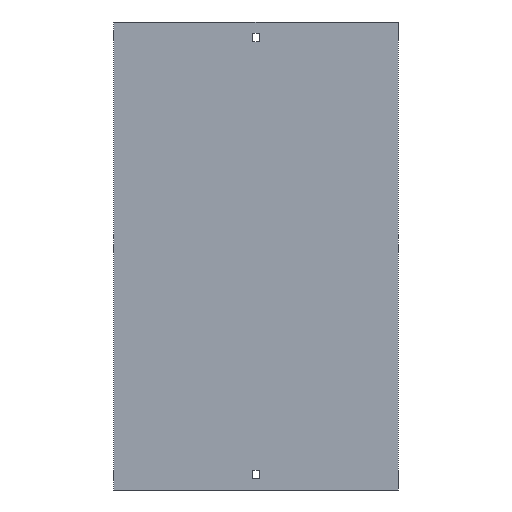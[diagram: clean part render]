
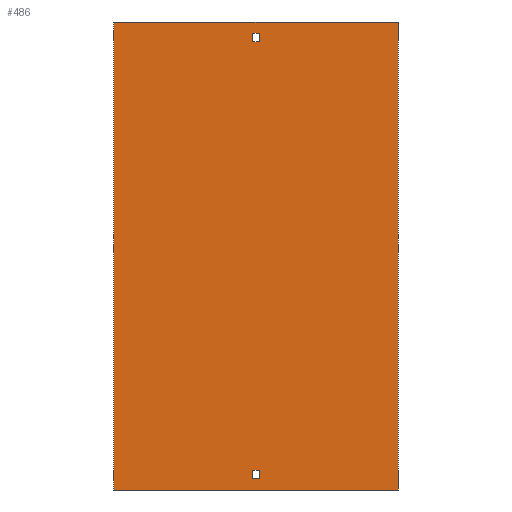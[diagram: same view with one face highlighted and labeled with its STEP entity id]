
A CAD part, front view. The second image highlights one B-rep face of the part: STEP entity #486.
In plain terms, the highlighted planar face has unit normal (0, -1, 0).
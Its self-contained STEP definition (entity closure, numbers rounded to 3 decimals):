
#27 = VERTEX_POINT ( 'NONE', #667 ) ;
#52 = ORIENTED_EDGE ( 'NONE', *, *, #933, .F. ) ;
#59 = CARTESIAN_POINT ( 'NONE',  ( 3.25, 0., -238. ) ) ;
#68 = ORIENTED_EDGE ( 'NONE', *, *, #633, .T. ) ;
#100 = EDGE_LOOP ( 'NONE', ( #280, #1287, #161, #68 ) ) ;
#105 = VERTEX_POINT ( 'NONE', #1090 ) ;
#113 = ORIENTED_EDGE ( 'NONE', *, *, #831, .T. ) ;
#119 = LINE ( 'NONE', #1139, #1295 ) ;
#127 = CARTESIAN_POINT ( 'NONE',  ( -3.25, 0., -229. ) ) ;
#149 = CARTESIAN_POINT ( 'NONE',  ( 3.25, 0., -229. ) ) ;
#161 = ORIENTED_EDGE ( 'NONE', *, *, #769, .F. ) ;
#181 = CARTESIAN_POINT ( 'NONE',  ( -3.25, 0., 238. ) ) ;
#199 = VERTEX_POINT ( 'NONE', #479 ) ;
#203 = VECTOR ( 'NONE', #473, 1000. ) ;
#208 = DIRECTION ( 'NONE',  ( 0., 0., -1. ) ) ;
#255 = LINE ( 'NONE', #372, #616 ) ;
#273 = CARTESIAN_POINT ( 'NONE',  ( -3.25, 0., 229. ) ) ;
#277 = EDGE_CURVE ( 'NONE', #1673, #1375, #361, .T. ) ;
#280 = ORIENTED_EDGE ( 'NONE', *, *, #1478, .T. ) ;
#282 = VERTEX_POINT ( 'NONE', #331 ) ;
#284 = VECTOR ( 'NONE', #1473, 1000. ) ;
#285 = ORIENTED_EDGE ( 'NONE', *, *, #289, .F. ) ;
#287 = CARTESIAN_POINT ( 'NONE',  ( -3.25, 0., 238. ) ) ;
#289 = EDGE_CURVE ( 'NONE', #697, #105, #1399, .T. ) ;
#294 = VERTEX_POINT ( 'NONE', #1275 ) ;
#304 = DIRECTION ( 'NONE',  ( -1., 0., 0. ) ) ;
#331 = CARTESIAN_POINT ( 'NONE',  ( 152., 0., 250. ) ) ;
#351 = CARTESIAN_POINT ( 'NONE',  ( -3.25, 0., -238. ) ) ;
#361 = LINE ( 'NONE', #879, #1666 ) ;
#372 = CARTESIAN_POINT ( 'NONE',  ( 152., 0., 250. ) ) ;
#461 = LINE ( 'NONE', #973, #203 ) ;
#473 = DIRECTION ( 'NONE',  ( 0., 0., 1. ) ) ;
#479 = CARTESIAN_POINT ( 'NONE',  ( 3.25, 0., 229. ) ) ;
#486 = ADVANCED_FACE ( 'NONE', ( #1339, #807, #1437 ), #1560, .F. ) ;
#502 = AXIS2_PLACEMENT_3D ( 'NONE', #1332, #789, #1205 ) ;
#504 = DIRECTION ( 'NONE',  ( 1., 0., 0. ) ) ;
#508 = EDGE_CURVE ( 'NONE', #1526, #1673, #764, .T. ) ;
#521 = DIRECTION ( 'NONE',  ( 1., 0., 0. ) ) ;
#558 = EDGE_LOOP ( 'NONE', ( #113, #591, #1016, #1325 ) ) ;
#591 = ORIENTED_EDGE ( 'NONE', *, *, #1413, .T. ) ;
#616 = VECTOR ( 'NONE', #878, 1000. ) ;
#633 = EDGE_CURVE ( 'NONE', #703, #1278, #990, .T. ) ;
#649 = LINE ( 'NONE', #127, #941 ) ;
#667 = CARTESIAN_POINT ( 'NONE',  ( 3.25, 0., 238. ) ) ;
#675 = CARTESIAN_POINT ( 'NONE',  ( -152., 0., 250. ) ) ;
#689 = VECTOR ( 'NONE', #208, 1000. ) ;
#697 = VERTEX_POINT ( 'NONE', #287 ) ;
#703 = VERTEX_POINT ( 'NONE', #675 ) ;
#714 = EDGE_CURVE ( 'NONE', #199, #27, #461, .T. ) ;
#721 = DIRECTION ( 'NONE',  ( 1., 0., 0. ) ) ;
#747 = CARTESIAN_POINT ( 'NONE',  ( 3.25, 0., -238. ) ) ;
#764 = LINE ( 'NONE', #747, #1161 ) ;
#769 = EDGE_CURVE ( 'NONE', #703, #282, #1259, .T. ) ;
#783 = VERTEX_POINT ( 'NONE', #1652 ) ;
#789 = DIRECTION ( 'NONE',  ( 0., 1., 0. ) ) ;
#791 = DIRECTION ( 'NONE',  ( 1., 0., 0. ) ) ;
#807 = FACE_BOUND ( 'NONE', #995, .T. ) ;
#831 = EDGE_CURVE ( 'NONE', #1375, #294, #1360, .T. ) ;
#851 = CARTESIAN_POINT ( 'NONE',  ( -3.25, 0., 238. ) ) ;
#877 = ORIENTED_EDGE ( 'NONE', *, *, #1616, .F. ) ;
#878 = DIRECTION ( 'NONE',  ( 0., 0., -1. ) ) ;
#879 = CARTESIAN_POINT ( 'NONE',  ( -3.25, 0., -238. ) ) ;
#901 = DIRECTION ( 'NONE',  ( 0., 0., -1. ) ) ;
#933 = EDGE_CURVE ( 'NONE', #27, #697, #1504, .T. ) ;
#936 = VECTOR ( 'NONE', #304, 1000. ) ;
#941 = VECTOR ( 'NONE', #521, 1000. ) ;
#966 = VECTOR ( 'NONE', #721, 1000. ) ;
#973 = CARTESIAN_POINT ( 'NONE',  ( 3.25, 0., 238. ) ) ;
#990 = LINE ( 'NONE', #1378, #284 ) ;
#995 = EDGE_LOOP ( 'NONE', ( #877, #285, #52, #1342 ) ) ;
#1016 = ORIENTED_EDGE ( 'NONE', *, *, #508, .T. ) ;
#1090 = CARTESIAN_POINT ( 'NONE',  ( -3.25, 0., 229. ) ) ;
#1099 = CARTESIAN_POINT ( 'NONE',  ( -3.25, 0., -238. ) ) ;
#1139 = CARTESIAN_POINT ( 'NONE',  ( -152., 0., -250. ) ) ;
#1161 = VECTOR ( 'NONE', #901, 1000. ) ;
#1205 = DIRECTION ( 'NONE',  ( -1., 0., 0. ) ) ;
#1259 = LINE ( 'NONE', #1628, #966 ) ;
#1275 = CARTESIAN_POINT ( 'NONE',  ( -3.25, 0., -229. ) ) ;
#1278 = VERTEX_POINT ( 'NONE', #1521 ) ;
#1287 = ORIENTED_EDGE ( 'NONE', *, *, #1423, .F. ) ;
#1295 = VECTOR ( 'NONE', #504, 1000. ) ;
#1314 = LINE ( 'NONE', #273, #1568 ) ;
#1325 = ORIENTED_EDGE ( 'NONE', *, *, #277, .T. ) ;
#1332 = CARTESIAN_POINT ( 'NONE',  ( -152., 0., 250. ) ) ;
#1339 = FACE_OUTER_BOUND ( 'NONE', #100, .T. ) ;
#1342 = ORIENTED_EDGE ( 'NONE', *, *, #714, .F. ) ;
#1360 = LINE ( 'NONE', #1099, #1565 ) ;
#1374 = DIRECTION ( 'NONE',  ( -1., 0., 0. ) ) ;
#1375 = VERTEX_POINT ( 'NONE', #351 ) ;
#1378 = CARTESIAN_POINT ( 'NONE',  ( -152., 0., 250. ) ) ;
#1399 = LINE ( 'NONE', #851, #689 ) ;
#1413 = EDGE_CURVE ( 'NONE', #294, #1526, #649, .T. ) ;
#1423 = EDGE_CURVE ( 'NONE', #282, #783, #255, .T. ) ;
#1437 = FACE_BOUND ( 'NONE', #558, .T. ) ;
#1473 = DIRECTION ( 'NONE',  ( 0., 0., -1. ) ) ;
#1478 = EDGE_CURVE ( 'NONE', #1278, #783, #119, .T. ) ;
#1504 = LINE ( 'NONE', #181, #936 ) ;
#1521 = CARTESIAN_POINT ( 'NONE',  ( -152., 0., -250. ) ) ;
#1526 = VERTEX_POINT ( 'NONE', #149 ) ;
#1560 = PLANE ( 'NONE',  #502 ) ;
#1565 = VECTOR ( 'NONE', #1620, 1000. ) ;
#1568 = VECTOR ( 'NONE', #791, 1000. ) ;
#1616 = EDGE_CURVE ( 'NONE', #105, #199, #1314, .T. ) ;
#1620 = DIRECTION ( 'NONE',  ( 0., 0., 1. ) ) ;
#1628 = CARTESIAN_POINT ( 'NONE',  ( -152., 0., 250. ) ) ;
#1652 = CARTESIAN_POINT ( 'NONE',  ( 152., 0., -250. ) ) ;
#1666 = VECTOR ( 'NONE', #1374, 1000. ) ;
#1673 = VERTEX_POINT ( 'NONE', #59 ) ;
